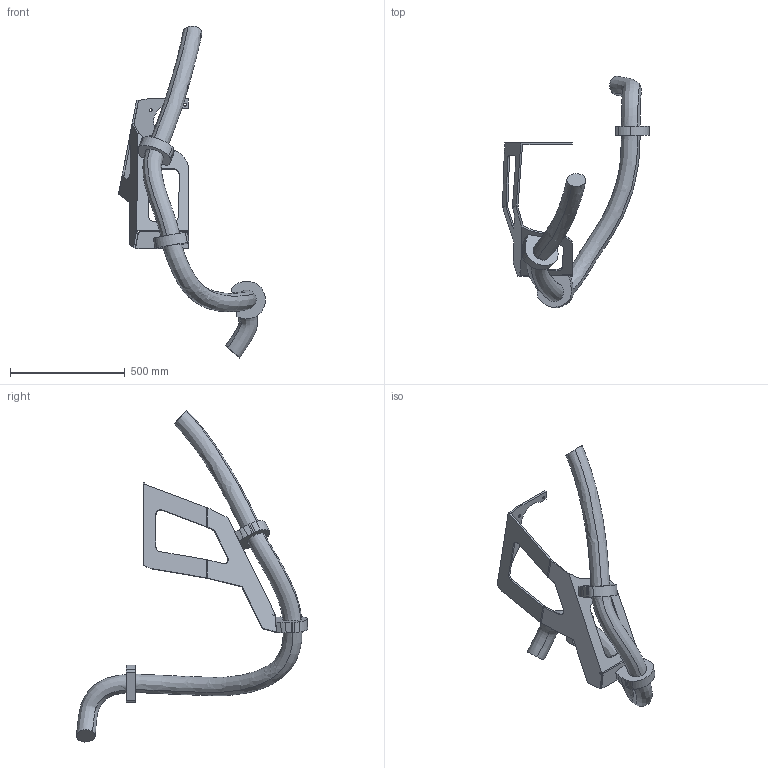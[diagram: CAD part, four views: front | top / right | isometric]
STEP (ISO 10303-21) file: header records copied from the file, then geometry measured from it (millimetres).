
FILE_DESCRIPTION (( 'STEP AP203' ), '1' );
FILE_NAME ('IRB8700-SW6_800-350_IRC5_rev00_LINK2_CABLE.STEP', '2015-06-05T09:04:08', ( 'ABB' ), ( 'ABB' ), 'SwSTEP 2.0', 'SolidWorks 2014', '' );
FILE_SCHEMA (( 'CONFIG_CONTROL_DESIGN' ));
Length unit declared in the file: millimetre
Products named in the file (1): IRB8700-SW6_800-350_IRC5_rev00_LINK2_CABLE
Bounding box: 639.97 x 1007.23 x 1445.26 mm (x, y, z)
Volume: 15977120.1 mm3; surface area: 1187556.4 mm2
Topology: 1 solids, 1 shells, 137 faces, 371 edges, 239 vertices
Faces by surface type: plane 72, cylinder 42, bspline 23
Entity records: 35556 total; most frequent: CARTESIAN_POINT 32145, ORIENTED_EDGE 742, DIRECTION 618, EDGE_CURVE 371, VERTEX_POINT 239, VECTOR 234, LINE 234, AXIS2_PLACEMENT_3D 192
